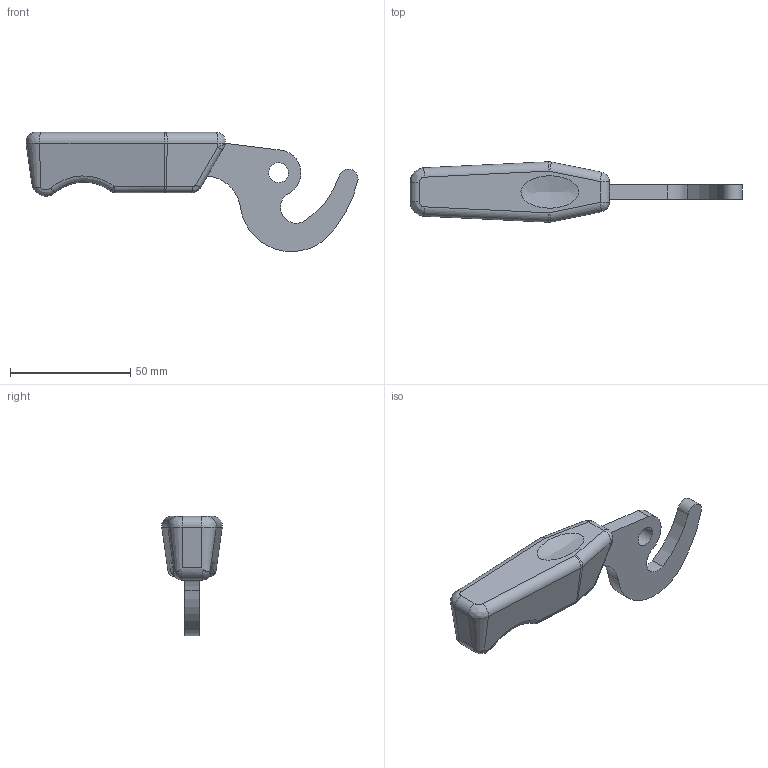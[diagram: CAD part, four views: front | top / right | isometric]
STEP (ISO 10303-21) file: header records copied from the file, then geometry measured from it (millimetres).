
FILE_DESCRIPTION( ('This file contains a STEP AP42 implementation' ,'as created by ZW3D STEP Interface translator.') ,'2;1' );
FILE_NAME( 'Raczka drzwiczek A6.stp' ,'26 827.124649', (''), ('ZWCAD Software Co.'), 'Version 1.0', 'ZW3D to STEP translator', '' );
FILE_SCHEMA(('AP242_MANAGED_MODEL_BASED_3D_ENGINEERING_MIM_LF { 1 0 10303 442 1 1 4 }'));
Length unit declared in the file: millimetre
Products named in the file (1): 0
Bounding box: 137.79 x 25.09 x 49.48 mm (x, y, z)
Volume: 43472.1 mm3; surface area: 10878.9 mm2
Topology: 1 solids, 1 shells, 63 faces, 150 edges, 91 vertices
Faces by surface type: cylinder 24, bspline 20, plane 12, cone 6, sphere 1
Full cylindrical faces by diameter (mm): 8.3 x1
Entity records: 2956 total; most frequent: CARTESIAN_POINT 1554, ORIENTED_EDGE 296, DIRECTION 244, EDGE_CURVE 148, AXIS2_PLACEMENT_3D 91, VERTEX_POINT 88, EDGE_LOOP 66, FACE_OUTER_BOUND 63
